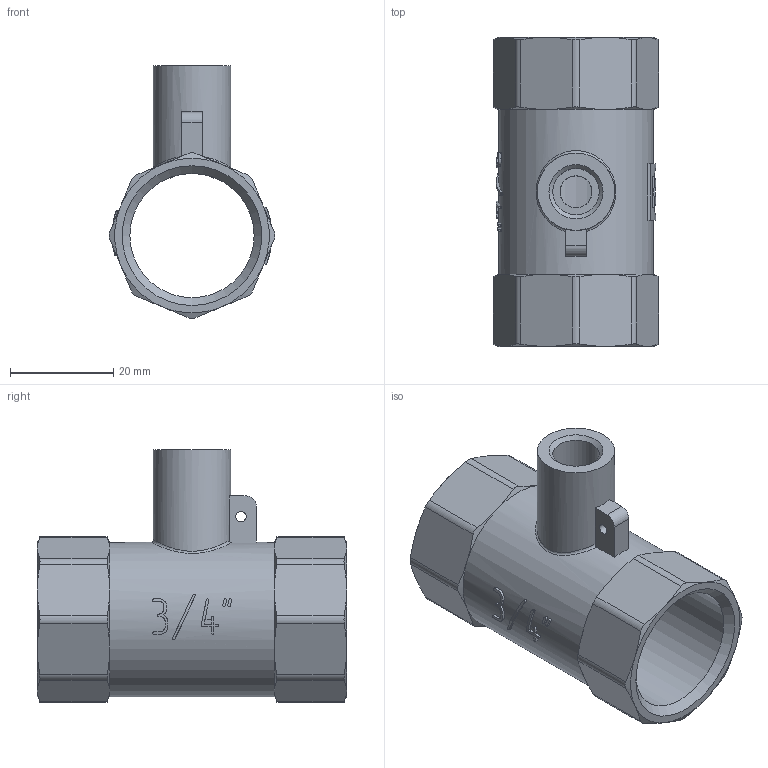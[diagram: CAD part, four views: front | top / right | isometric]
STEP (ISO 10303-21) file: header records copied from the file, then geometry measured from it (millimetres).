
FILE_DESCRIPTION(('STEP AP203'), '1');
FILE_NAME('ÂÐ.752243.017 - VTr.250.N.0005 - Òðîé. äëÿ ïîäêë. äàò÷. òåìï', '2024-06-27T11:50:51', ('Boss'), (''), 'C3D Converter', 'C3D Toolkit', '');
FILE_SCHEMA(('CONFIG_CONTROL_DESIGN'));
Length unit declared in the file: millimetre
Products named in the file (1): ВР.752243.017
Bounding box: 32.14 x 60 x 49.07 mm (x, y, z)
Volume: 18371.2 mm3; surface area: 12302.9 mm2
Topology: 1 solids, 1 shells, 211 faces, 571 edges, 369 vertices
Faces by surface type: plane 73, extrusion 69, cone 35, cylinder 33, bspline 1
Full cylindrical faces by diameter (mm): 2 x1, 6.2 x1, 9 x1, 15 x1, 24.118 x1, 30 x1
Entity records: 11386 total; most frequent: CARTESIAN_POINT 6667, ORIENTED_EDGE 1112, DIRECTION 698, EDGE_CURVE 556, VERTEX_POINT 367, B_SPLINE_CURVE_WITH_KNOTS 313, VECTOR 260, EDGE_LOOP 235
